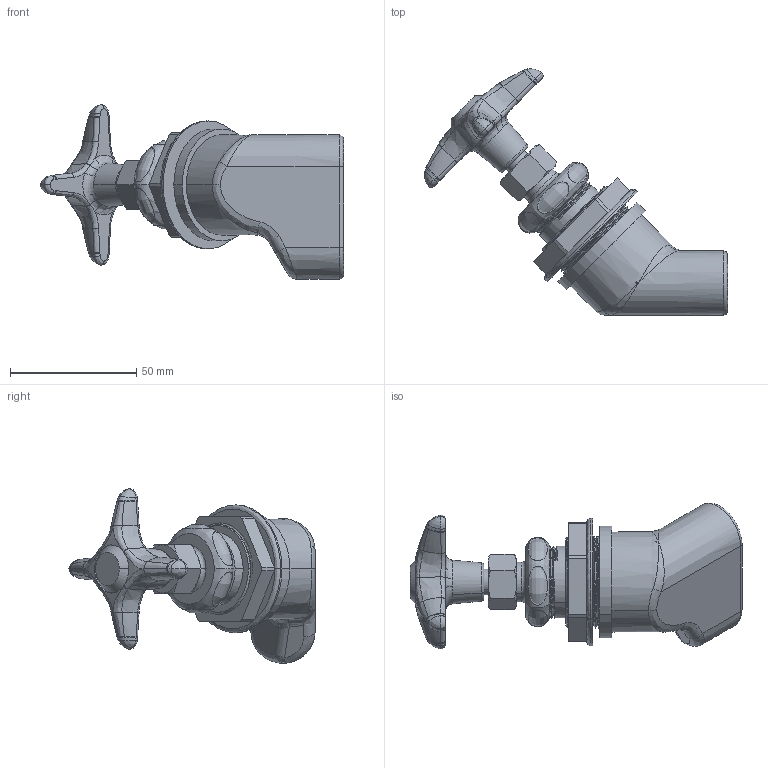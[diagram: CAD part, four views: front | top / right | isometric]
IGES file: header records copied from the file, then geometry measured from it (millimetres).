
Start section:  PTC IGES file: LRV-F2-A2B.igs
Global section: file name: LRV-F2-A2B.igs; native system: Creo Parametric by PTC Inc.; preprocessor: 2014500; author: usch_engrender; organization: Unknown; date: 20160208.154427; units: inch
Bounding box: 119.9 x 97.37 x 69.02 mm (x, y, z)
Surface area: 32949.3 mm2 (no closed solid volume)
Topology: 0 solids, 18 shells, 268 faces, 648 edges, 395 vertices
Faces by surface type: bspline 185, revolution 83
